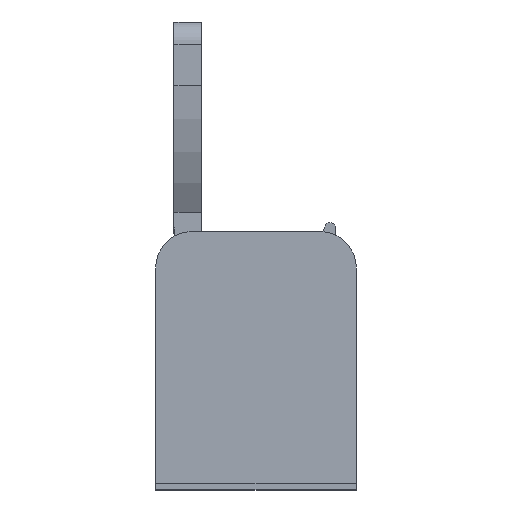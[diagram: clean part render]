
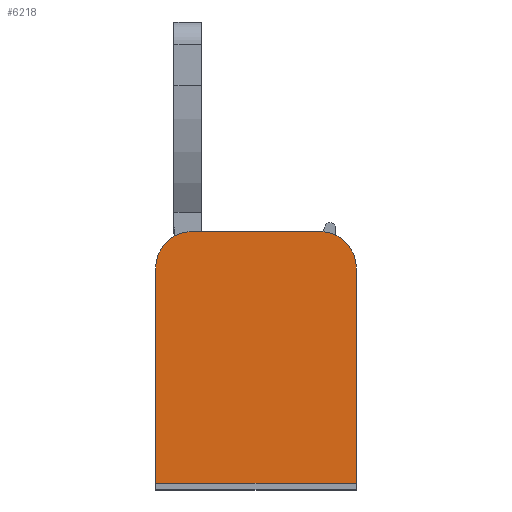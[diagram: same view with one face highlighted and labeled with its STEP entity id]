
A CAD part, top view. The second image highlights one B-rep face of the part: STEP entity #6218.
In plain terms, the highlighted planar face has unit normal (0, 0, 1) as drawn and (0, 0, -1) by its records, which use the part's own axes.
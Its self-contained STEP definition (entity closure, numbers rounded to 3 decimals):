
#6003=DIRECTION('',(0.,-1.,0.));
#6004=VECTOR('',#6003,11.8);
#6005=CARTESIAN_POINT('',(-5.5,6.9,0.));
#6006=LINE('',#6005,#6004);
#6007=CARTESIAN_POINT('',(-3.5,-4.9,0.));
#6008=DIRECTION('',(0.,0.,1.));
#6009=DIRECTION('',(-1.,0.,0.));
#6010=AXIS2_PLACEMENT_3D('',#6007,#6008,#6009);
#6012=DIRECTION('',(1.,0.,0.));
#6013=VECTOR('',#6012,7.);
#6014=CARTESIAN_POINT('',(-3.5,-6.9,0.));
#6015=LINE('',#6014,#6013);
#6016=CARTESIAN_POINT('',(3.5,-4.9,0.));
#6017=DIRECTION('',(0.,0.,1.));
#6018=DIRECTION('',(0.,-1.,0.));
#6019=AXIS2_PLACEMENT_3D('',#6016,#6017,#6018);
#6021=DIRECTION('',(0.,1.,0.));
#6022=VECTOR('',#6021,11.8);
#6023=CARTESIAN_POINT('',(5.5,-4.9,0.));
#6024=LINE('',#6023,#6022);
#6025=DIRECTION('',(-1.,0.,0.));
#6026=VECTOR('',#6025,11.);
#6027=CARTESIAN_POINT('',(5.5,6.9,0.));
#6028=LINE('',#6027,#6026);
#6151=CARTESIAN_POINT('',(-5.5,6.9,0.));
#6152=CARTESIAN_POINT('',(-5.5,-4.9,0.));
#6153=VERTEX_POINT('',#6151);
#6154=VERTEX_POINT('',#6152);
#6155=CARTESIAN_POINT('',(-3.5,-6.9,0.));
#6156=VERTEX_POINT('',#6155);
#6157=CARTESIAN_POINT('',(3.5,-6.9,0.));
#6158=VERTEX_POINT('',#6157);
#6159=CARTESIAN_POINT('',(5.5,-4.9,0.));
#6160=VERTEX_POINT('',#6159);
#6161=CARTESIAN_POINT('',(5.5,6.9,0.));
#6162=VERTEX_POINT('',#6161);
#6199=CARTESIAN_POINT('',(0.,0.,0.));
#6200=DIRECTION('',(0.,0.,1.));
#6201=DIRECTION('',(1.,0.,0.));
#6202=AXIS2_PLACEMENT_3D('',#6199,#6200,#6201);
#6203=PLANE('',#6202);
#6205=ORIENTED_EDGE('',*,*,#6204,.T.);
#6207=ORIENTED_EDGE('',*,*,#6206,.T.);
#6209=ORIENTED_EDGE('',*,*,#6208,.T.);
#6211=ORIENTED_EDGE('',*,*,#6210,.T.);
#6213=ORIENTED_EDGE('',*,*,#6212,.T.);
#6215=ORIENTED_EDGE('',*,*,#6214,.T.);
#6216=EDGE_LOOP('',(#6205,#6207,#6209,#6211,#6213,#6215));
#6217=FACE_OUTER_BOUND('',#6216,.F.);
#6218=ADVANCED_FACE('',(#6217),#6203,.F.);
#6011=CIRCLE('',#6010,2.);
#6020=CIRCLE('',#6019,2.);
#6204=EDGE_CURVE('',#6153,#6154,#6006,.T.);
#6206=EDGE_CURVE('',#6154,#6156,#6011,.T.);
#6208=EDGE_CURVE('',#6156,#6158,#6015,.T.);
#6210=EDGE_CURVE('',#6158,#6160,#6020,.T.);
#6212=EDGE_CURVE('',#6160,#6162,#6024,.T.);
#6214=EDGE_CURVE('',#6162,#6153,#6028,.T.);
